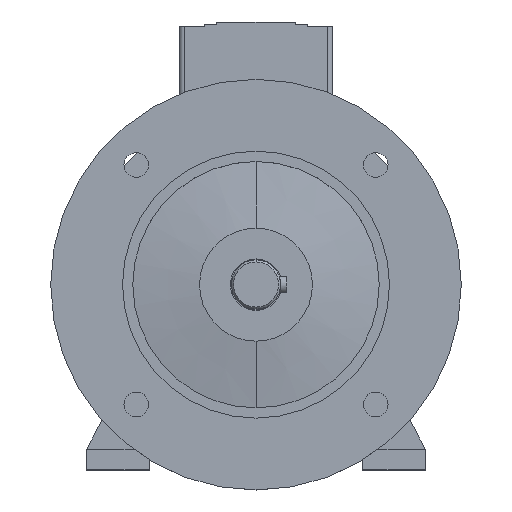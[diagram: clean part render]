
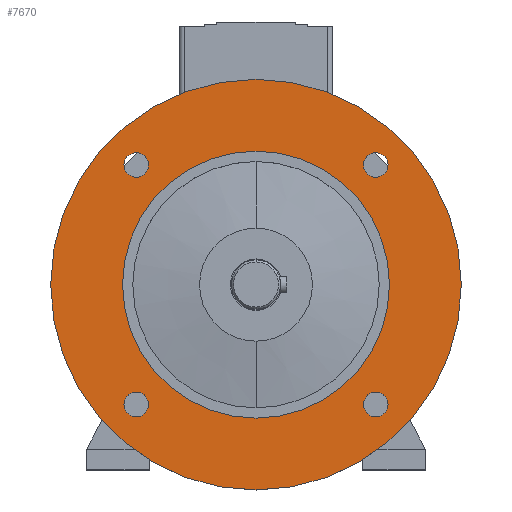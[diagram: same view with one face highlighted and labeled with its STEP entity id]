
A CAD part, top view. The second image highlights one B-rep face of the part: STEP entity #7670.
In plain terms, the highlighted planar face has unit normal (0, 0, 1).
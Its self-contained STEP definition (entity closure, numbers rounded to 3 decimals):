
#1065=CARTESIAN_POINT('',(-58.336,58.336,31.5));
#1066=DIRECTION('',(0.,0.,-1.));
#1067=DIRECTION('',(-1.,0.,0.));
#1068=AXIS2_PLACEMENT_3D('',#1065,#1066,#1067);
#1070=CARTESIAN_POINT('',(-58.336,58.336,31.5));
#1071=DIRECTION('',(0.,0.,-1.));
#1072=DIRECTION('',(1.,0.,0.));
#1073=AXIS2_PLACEMENT_3D('',#1070,#1071,#1072);
#1075=CARTESIAN_POINT('',(-58.336,-58.336,31.5));
#1076=DIRECTION('',(0.,0.,-1.));
#1077=DIRECTION('',(-1.,0.,0.));
#1078=AXIS2_PLACEMENT_3D('',#1075,#1076,#1077);
#1080=CARTESIAN_POINT('',(-58.336,-58.336,31.5));
#1081=DIRECTION('',(0.,0.,-1.));
#1082=DIRECTION('',(1.,0.,0.));
#1083=AXIS2_PLACEMENT_3D('',#1080,#1081,#1082);
#1085=CARTESIAN_POINT('',(58.336,-58.336,31.5));
#1086=DIRECTION('',(0.,0.,-1.));
#1087=DIRECTION('',(-1.,0.,0.));
#1088=AXIS2_PLACEMENT_3D('',#1085,#1086,#1087);
#1090=CARTESIAN_POINT('',(58.336,-58.336,31.5));
#1091=DIRECTION('',(0.,0.,-1.));
#1092=DIRECTION('',(1.,0.,0.));
#1093=AXIS2_PLACEMENT_3D('',#1090,#1091,#1092);
#1095=CARTESIAN_POINT('',(0.,0.,31.5));
#1096=DIRECTION('',(0.,0.,1.));
#1097=DIRECTION('',(0.,1.,0.));
#1098=AXIS2_PLACEMENT_3D('',#1095,#1096,#1097);
#1100=CARTESIAN_POINT('',(0.,0.,31.5));
#1101=DIRECTION('',(0.,0.,-1.));
#1102=DIRECTION('',(0.,1.,0.));
#1103=AXIS2_PLACEMENT_3D('',#1100,#1101,#1102);
#1105=CARTESIAN_POINT('',(58.336,58.336,31.5));
#1106=DIRECTION('',(0.,0.,-1.));
#1107=DIRECTION('',(-1.,0.,0.));
#1108=AXIS2_PLACEMENT_3D('',#1105,#1106,#1107);
#1110=CARTESIAN_POINT('',(58.336,58.336,31.5));
#1111=DIRECTION('',(0.,0.,-1.));
#1112=DIRECTION('',(1.,0.,0.));
#1113=AXIS2_PLACEMENT_3D('',#1110,#1111,#1112);
#1135=CARTESIAN_POINT('',(0.,0.,31.5));
#1136=DIRECTION('',(0.,0.,-1.));
#1137=DIRECTION('',(0.,1.,0.));
#1138=AXIS2_PLACEMENT_3D('',#1135,#1136,#1137);
#1148=CARTESIAN_POINT('',(0.,0.,31.5));
#1149=DIRECTION('',(0.,0.,1.));
#1150=DIRECTION('',(0.,1.,0.));
#1151=AXIS2_PLACEMENT_3D('',#1148,#1149,#1150);
#4633=CARTESIAN_POINT('',(0.,100.,31.5));
#4635=VERTEX_POINT('',#4633);
#4636=CARTESIAN_POINT('',(0.,65.,31.5));
#4638=VERTEX_POINT('',#4636);
#4641=CARTESIAN_POINT('',(0.,-100.,31.5));
#4643=VERTEX_POINT('',#4641);
#4644=CARTESIAN_POINT('',(0.,-65.,31.5));
#4646=VERTEX_POINT('',#4644);
#4652=CARTESIAN_POINT('',(52.336,58.336,31.5));
#4653=CARTESIAN_POINT('',(64.336,58.336,31.5));
#4654=VERTEX_POINT('',#4652);
#4655=VERTEX_POINT('',#4653);
#4660=CARTESIAN_POINT('',(52.336,-58.336,31.5));
#4661=CARTESIAN_POINT('',(64.336,-58.336,31.5));
#4662=VERTEX_POINT('',#4660);
#4663=VERTEX_POINT('',#4661);
#4668=CARTESIAN_POINT('',(-64.336,-58.336,31.5));
#4669=CARTESIAN_POINT('',(-52.336,-58.336,31.5));
#4670=VERTEX_POINT('',#4668);
#4671=VERTEX_POINT('',#4669);
#4676=CARTESIAN_POINT('',(-64.336,58.336,31.5));
#4677=CARTESIAN_POINT('',(-52.336,58.336,31.5));
#4678=VERTEX_POINT('',#4676);
#4679=VERTEX_POINT('',#4677);
#7630=CARTESIAN_POINT('',(0.,0.,31.5));
#7631=DIRECTION('',(0.,0.,-1.));
#7632=DIRECTION('',(0.,-1.,0.));
#7633=AXIS2_PLACEMENT_3D('',#7630,#7631,#7632);
#7634=PLANE('',#7633);
#7636=ORIENTED_EDGE('',*,*,#7635,.F.);
#7638=ORIENTED_EDGE('',*,*,#7637,.T.);
#7639=EDGE_LOOP('',(#7636,#7638));
#7640=FACE_OUTER_BOUND('',#7639,.F.);
#7641=ORIENTED_EDGE('',*,*,#7620,.F.);
#7643=ORIENTED_EDGE('',*,*,#7642,.F.);
#7644=EDGE_LOOP('',(#7641,#7643));
#7645=FACE_BOUND('',#7644,.F.);
#7647=ORIENTED_EDGE('',*,*,#7646,.F.);
#7649=ORIENTED_EDGE('',*,*,#7648,.F.);
#7650=EDGE_LOOP('',(#7647,#7649));
#7651=FACE_BOUND('',#7650,.F.);
#7653=ORIENTED_EDGE('',*,*,#7652,.F.);
#7655=ORIENTED_EDGE('',*,*,#7654,.F.);
#7656=EDGE_LOOP('',(#7653,#7655));
#7657=FACE_BOUND('',#7656,.F.);
#7659=ORIENTED_EDGE('',*,*,#7658,.F.);
#7661=ORIENTED_EDGE('',*,*,#7660,.T.);
#7662=EDGE_LOOP('',(#7659,#7661));
#7663=FACE_BOUND('',#7662,.F.);
#7665=ORIENTED_EDGE('',*,*,#7664,.F.);
#7667=ORIENTED_EDGE('',*,*,#7666,.F.);
#7668=EDGE_LOOP('',(#7665,#7667));
#7669=FACE_BOUND('',#7668,.F.);
#7670=ADVANCED_FACE('',(#7640,#7645,#7651,#7657,#7663,#7669),#7634,.F.);
#1069=CIRCLE('',#1068,6.);
#1074=CIRCLE('',#1073,6.);
#1079=CIRCLE('',#1078,6.);
#1084=CIRCLE('',#1083,6.);
#1089=CIRCLE('',#1088,6.);
#1094=CIRCLE('',#1093,6.);
#1099=CIRCLE('',#1098,100.);
#1104=CIRCLE('',#1103,100.);
#1109=CIRCLE('',#1108,6.);
#1114=CIRCLE('',#1113,6.);
#1139=CIRCLE('',#1138,65.);
#1152=CIRCLE('',#1151,65.);
#7620=EDGE_CURVE('',#4678,#4679,#1069,.T.);
#7635=EDGE_CURVE('',#4635,#4643,#1099,.T.);
#7637=EDGE_CURVE('',#4635,#4643,#1104,.T.);
#7642=EDGE_CURVE('',#4679,#4678,#1074,.T.);
#7646=EDGE_CURVE('',#4670,#4671,#1079,.T.);
#7648=EDGE_CURVE('',#4671,#4670,#1084,.T.);
#7652=EDGE_CURVE('',#4662,#4663,#1089,.T.);
#7654=EDGE_CURVE('',#4663,#4662,#1094,.T.);
#7658=EDGE_CURVE('',#4638,#4646,#1139,.T.);
#7660=EDGE_CURVE('',#4638,#4646,#1152,.T.);
#7664=EDGE_CURVE('',#4654,#4655,#1109,.T.);
#7666=EDGE_CURVE('',#4655,#4654,#1114,.T.);
